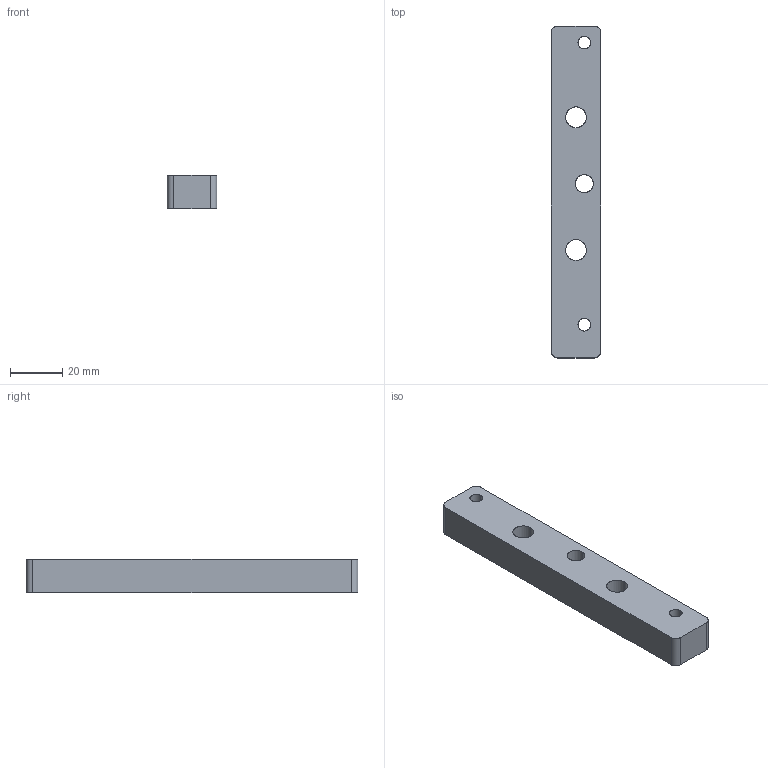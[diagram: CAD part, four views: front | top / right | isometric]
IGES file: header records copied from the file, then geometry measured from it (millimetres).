
Start section: SolidWorks IGES file using analytic representation for surfaces
Global section: file name: C:\Users\Public\Documents\Plasma and CNC\CNC Router\Exports for OpenBuilds\Gantry Slide Mount A1.IGS; native system: SolidWorks 2010; preprocessor: SolidWorks 2010; author: Neil; date: 140127.163422; units: inch
Bounding box: 19.05 x 127 x 12.7 mm (x, y, z)
Surface area: 9429 mm2 (no closed solid volume)
Topology: 0 solids, 0 shells, 20 faces, 464 edges, 464 vertices
Faces by surface type: revolution 14, bspline 6
